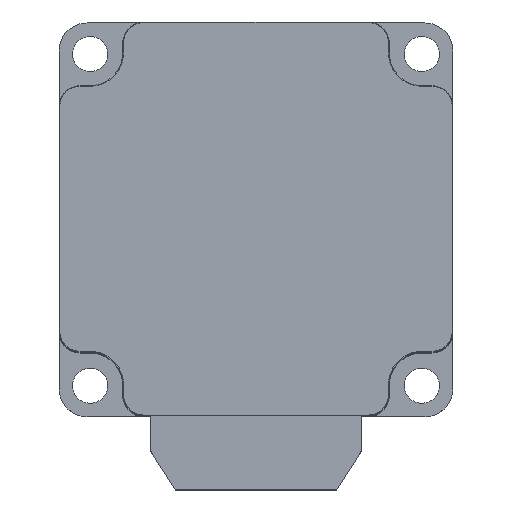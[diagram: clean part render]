
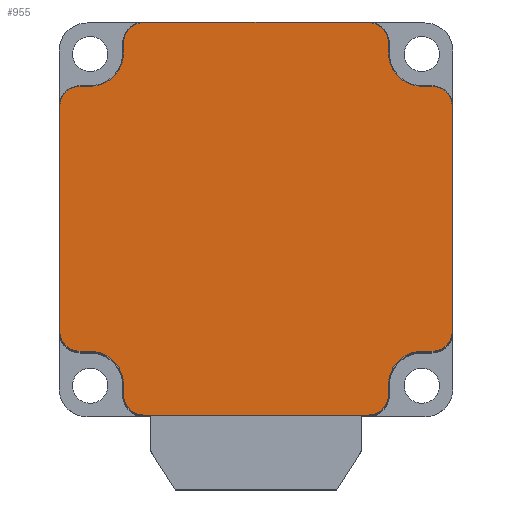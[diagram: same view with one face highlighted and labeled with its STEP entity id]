
A CAD part, top view. The second image highlights one B-rep face of the part: STEP entity #955.
In plain terms, the highlighted planar face has unit normal (0, 0, 1).
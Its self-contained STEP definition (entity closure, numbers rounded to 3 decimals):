
#955=ADVANCED_FACE('',(#2001),#2003,.T.);
#2001=FACE_BOUND('',#2002,.T.);
#2002=EDGE_LOOP('',(#2807,#2808,#2809,#2810,#2811,#2812,#2813,#2814,#2815,#2816,
#2817,#2818,#2819,#2820,#2821,#2822,#2823,#2824,#2825,#2826,#2827,#2828,#2829,#2830));
#2003=PLANE('',#2004);
#2004=AXIS2_PLACEMENT_3D('',#2005,#2006,#2007);
#2005=CARTESIAN_POINT('',(0.,0.,96.));
#2006=DIRECTION('',(0.,-0.,1.));
#2007=DIRECTION('',(0.,1.,0.));
#2807=ORIENTED_EDGE('',*,*,#3226,.T.);
#2808=ORIENTED_EDGE('',*,*,#3272,.T.);
#2809=ORIENTED_EDGE('',*,*,#3270,.T.);
#2810=ORIENTED_EDGE('',*,*,#3268,.T.);
#2811=ORIENTED_EDGE('',*,*,#3266,.T.);
#2812=ORIENTED_EDGE('',*,*,#3264,.T.);
#2813=ORIENTED_EDGE('',*,*,#3262,.T.);
#2814=ORIENTED_EDGE('',*,*,#3260,.T.);
#2815=ORIENTED_EDGE('',*,*,#3258,.T.);
#2816=ORIENTED_EDGE('',*,*,#3256,.T.);
#2817=ORIENTED_EDGE('',*,*,#3254,.T.);
#2818=ORIENTED_EDGE('',*,*,#3252,.T.);
#2819=ORIENTED_EDGE('',*,*,#3250,.T.);
#2820=ORIENTED_EDGE('',*,*,#3248,.T.);
#2821=ORIENTED_EDGE('',*,*,#3246,.T.);
#2822=ORIENTED_EDGE('',*,*,#3244,.T.);
#2823=ORIENTED_EDGE('',*,*,#3242,.T.);
#2824=ORIENTED_EDGE('',*,*,#3240,.T.);
#2825=ORIENTED_EDGE('',*,*,#3238,.T.);
#2826=ORIENTED_EDGE('',*,*,#3236,.T.);
#2827=ORIENTED_EDGE('',*,*,#3234,.T.);
#2828=ORIENTED_EDGE('',*,*,#3232,.T.);
#2829=ORIENTED_EDGE('',*,*,#3230,.T.);
#2830=ORIENTED_EDGE('',*,*,#3228,.T.);
#3226=EDGE_CURVE('',#3738,#3736,#3739,.T.);
#3228=EDGE_CURVE('',#3741,#3738,#3742,.T.);
#3230=EDGE_CURVE('',#3744,#3741,#3745,.T.);
#3232=EDGE_CURVE('',#3747,#3744,#3748,.T.);
#3234=EDGE_CURVE('',#3750,#3747,#3751,.T.);
#3236=EDGE_CURVE('',#3753,#3750,#3754,.T.);
#3238=EDGE_CURVE('',#3756,#3753,#3757,.T.);
#3240=EDGE_CURVE('',#3759,#3756,#3760,.T.);
#3242=EDGE_CURVE('',#3762,#3759,#3763,.T.);
#3244=EDGE_CURVE('',#3765,#3762,#3766,.T.);
#3246=EDGE_CURVE('',#3768,#3765,#3769,.T.);
#3248=EDGE_CURVE('',#3771,#3768,#3772,.T.);
#3250=EDGE_CURVE('',#3774,#3771,#3775,.T.);
#3252=EDGE_CURVE('',#3777,#3774,#3778,.T.);
#3254=EDGE_CURVE('',#3780,#3777,#3781,.T.);
#3256=EDGE_CURVE('',#3783,#3780,#3784,.T.);
#3258=EDGE_CURVE('',#3786,#3783,#3787,.T.);
#3260=EDGE_CURVE('',#3789,#3786,#3790,.T.);
#3262=EDGE_CURVE('',#3792,#3789,#3793,.T.);
#3264=EDGE_CURVE('',#3795,#3792,#3796,.T.);
#3266=EDGE_CURVE('',#3798,#3795,#3799,.T.);
#3268=EDGE_CURVE('',#3801,#3798,#3802,.T.);
#3270=EDGE_CURVE('',#3804,#3801,#3805,.T.);
#3272=EDGE_CURVE('',#3736,#3804,#3807,.T.);
#3736=VERTEX_POINT('',#4889);
#3738=VERTEX_POINT('',#4893);
#3739=CIRCLE('',#4894,2.9);
#3741=VERTEX_POINT('',#4901);
#3742=LINE('',#4902,#4903);
#3744=VERTEX_POINT('',#4908);
#3745=CIRCLE('',#4909,2.9);
#3747=VERTEX_POINT('',#4916);
#3748=LINE('',#4917,#4918);
#3750=VERTEX_POINT('',#4923);
#3751=CIRCLE('',#4924,4.73);
#3753=VERTEX_POINT('',#4931);
#3754=LINE('',#4932,#4933);
#3756=VERTEX_POINT('',#4938);
#3757=CIRCLE('',#4939,2.9);
#3759=VERTEX_POINT('',#4946);
#3760=LINE('',#4947,#4948);
#3762=VERTEX_POINT('',#4953);
#3763=CIRCLE('',#4954,2.9);
#3765=VERTEX_POINT('',#4961);
#3766=LINE('',#4962,#4963);
#3768=VERTEX_POINT('',#4968);
#3769=CIRCLE('',#4969,4.73);
#3771=VERTEX_POINT('',#4976);
#3772=LINE('',#4977,#4978);
#3774=VERTEX_POINT('',#4983);
#3775=CIRCLE('',#4984,2.9);
#3777=VERTEX_POINT('',#4991);
#3778=LINE('',#4992,#4993);
#3780=VERTEX_POINT('',#4998);
#3781=CIRCLE('',#4999,2.9);
#3783=VERTEX_POINT('',#5006);
#3784=LINE('',#5007,#5008);
#3786=VERTEX_POINT('',#5013);
#3787=CIRCLE('',#5014,4.73);
#3789=VERTEX_POINT('',#5021);
#3790=LINE('',#5022,#5023);
#3792=VERTEX_POINT('',#5028);
#3793=CIRCLE('',#5029,2.9);
#3795=VERTEX_POINT('',#5036);
#3796=LINE('',#5037,#5038);
#3798=VERTEX_POINT('',#5043);
#3799=CIRCLE('',#5044,2.9);
#3801=VERTEX_POINT('',#5051);
#3802=LINE('',#5052,#5053);
#3804=VERTEX_POINT('',#5058);
#3805=CIRCLE('',#5059,4.73);
#3807=LINE('',#5066,#5067);
#4889=CARTESIAN_POINT('',(-25.,-18.84,96.));
#4893=CARTESIAN_POINT('',(-27.9,-15.94,96.));
#4894=AXIS2_PLACEMENT_3D('',#4895,#4896,#4897);
#4895=CARTESIAN_POINT('',(-25.,-15.94,96.));
#4896=DIRECTION('',(0.,-0.,1.));
#4897=DIRECTION('',(-1.,0.,0.));
#4901=CARTESIAN_POINT('',(-27.9,15.94,96.));
#4902=CARTESIAN_POINT('',(-27.9,15.94,96.));
#4903=VECTOR('',#4904,1.);
#4904=DIRECTION('',(0.,-1.,0.));
#4908=CARTESIAN_POINT('',(-25.,18.84,96.));
#4909=AXIS2_PLACEMENT_3D('',#4910,#4911,#4912);
#4910=CARTESIAN_POINT('',(-25.,15.94,96.));
#4911=DIRECTION('',(0.,-0.,1.));
#4912=DIRECTION('',(0.,1.,0.));
#4916=CARTESIAN_POINT('',(-23.57,18.84,96.));
#4917=CARTESIAN_POINT('',(-23.57,18.84,96.));
#4918=VECTOR('',#4919,1.);
#4919=DIRECTION('',(-1.,0.,0.));
#4923=CARTESIAN_POINT('',(-18.84,23.57,96.));
#4924=AXIS2_PLACEMENT_3D('',#4925,#4926,#4927);
#4925=CARTESIAN_POINT('',(-23.57,23.57,96.));
#4926=DIRECTION('',(0.,0.,-1.));
#4927=DIRECTION('',(1.,0.,0.));
#4931=CARTESIAN_POINT('',(-18.84,25.,96.));
#4932=CARTESIAN_POINT('',(-18.84,25.,96.));
#4933=VECTOR('',#4934,1.);
#4934=DIRECTION('',(0.,-1.,0.));
#4938=CARTESIAN_POINT('',(-15.94,27.9,96.));
#4939=AXIS2_PLACEMENT_3D('',#4940,#4941,#4942);
#4940=CARTESIAN_POINT('',(-15.94,25.,96.));
#4941=DIRECTION('',(0.,-0.,1.));
#4942=DIRECTION('',(0.,1.,0.));
#4946=CARTESIAN_POINT('',(15.94,27.9,96.));
#4947=CARTESIAN_POINT('',(15.94,27.9,96.));
#4948=VECTOR('',#4949,1.);
#4949=DIRECTION('',(-1.,0.,0.));
#4953=CARTESIAN_POINT('',(18.84,25.,96.));
#4954=AXIS2_PLACEMENT_3D('',#4955,#4956,#4957);
#4955=CARTESIAN_POINT('',(15.94,25.,96.));
#4956=DIRECTION('',(0.,-0.,1.));
#4957=DIRECTION('',(1.,0.,0.));
#4961=CARTESIAN_POINT('',(18.84,23.57,96.));
#4962=CARTESIAN_POINT('',(18.84,23.57,96.));
#4963=VECTOR('',#4964,1.);
#4964=DIRECTION('',(0.,1.,0.));
#4968=CARTESIAN_POINT('',(23.57,18.84,96.));
#4969=AXIS2_PLACEMENT_3D('',#4970,#4971,#4972);
#4970=CARTESIAN_POINT('',(23.57,23.57,96.));
#4971=DIRECTION('',(-0.,0.,-1.));
#4972=DIRECTION('',(0.,-1.,0.));
#4976=CARTESIAN_POINT('',(25.,18.84,96.));
#4977=CARTESIAN_POINT('',(25.,18.84,96.));
#4978=VECTOR('',#4979,1.);
#4979=DIRECTION('',(-1.,0.,0.));
#4983=CARTESIAN_POINT('',(27.9,15.94,96.));
#4984=AXIS2_PLACEMENT_3D('',#4985,#4986,#4987);
#4985=CARTESIAN_POINT('',(25.,15.94,96.));
#4986=DIRECTION('',(0.,-0.,1.));
#4987=DIRECTION('',(1.,0.,0.));
#4991=CARTESIAN_POINT('',(27.9,-15.94,96.));
#4992=CARTESIAN_POINT('',(27.9,-15.94,96.));
#4993=VECTOR('',#4994,1.);
#4994=DIRECTION('',(0.,1.,0.));
#4998=CARTESIAN_POINT('',(25.,-18.84,96.));
#4999=AXIS2_PLACEMENT_3D('',#5000,#5001,#5002);
#5000=CARTESIAN_POINT('',(25.,-15.94,96.));
#5001=DIRECTION('',(0.,-0.,1.));
#5002=DIRECTION('',(0.,-1.,0.));
#5006=CARTESIAN_POINT('',(23.57,-18.84,96.));
#5007=CARTESIAN_POINT('',(23.57,-18.84,96.));
#5008=VECTOR('',#5009,1.);
#5009=DIRECTION('',(1.,0.,0.));
#5013=CARTESIAN_POINT('',(18.84,-23.57,96.));
#5014=AXIS2_PLACEMENT_3D('',#5015,#5016,#5017);
#5015=CARTESIAN_POINT('',(23.57,-23.57,96.));
#5016=DIRECTION('',(-0.,0.,-1.));
#5017=DIRECTION('',(-1.,0.,0.));
#5021=CARTESIAN_POINT('',(18.84,-25.,96.));
#5022=CARTESIAN_POINT('',(18.84,-25.,96.));
#5023=VECTOR('',#5024,1.);
#5024=DIRECTION('',(0.,1.,0.));
#5028=CARTESIAN_POINT('',(15.94,-27.9,96.));
#5029=AXIS2_PLACEMENT_3D('',#5030,#5031,#5032);
#5030=CARTESIAN_POINT('',(15.94,-25.,96.));
#5031=DIRECTION('',(0.,-0.,1.));
#5032=DIRECTION('',(0.,-1.,0.));
#5036=CARTESIAN_POINT('',(-15.94,-27.9,96.));
#5037=CARTESIAN_POINT('',(-15.94,-27.9,96.));
#5038=VECTOR('',#5039,1.);
#5039=DIRECTION('',(1.,0.,0.));
#5043=CARTESIAN_POINT('',(-18.84,-25.,96.));
#5044=AXIS2_PLACEMENT_3D('',#5045,#5046,#5047);
#5045=CARTESIAN_POINT('',(-15.94,-25.,96.));
#5046=DIRECTION('',(0.,-0.,1.));
#5047=DIRECTION('',(-1.,0.,0.));
#5051=CARTESIAN_POINT('',(-18.84,-23.57,96.));
#5052=CARTESIAN_POINT('',(-18.84,-23.57,96.));
#5053=VECTOR('',#5054,1.);
#5054=DIRECTION('',(0.,-1.,0.));
#5058=CARTESIAN_POINT('',(-23.57,-18.84,96.));
#5059=AXIS2_PLACEMENT_3D('',#5060,#5061,#5062);
#5060=CARTESIAN_POINT('',(-23.57,-23.57,96.));
#5061=DIRECTION('',(0.,0.,-1.));
#5062=DIRECTION('',(0.,1.,0.));
#5066=CARTESIAN_POINT('',(-25.,-18.84,96.));
#5067=VECTOR('',#5068,1.);
#5068=DIRECTION('',(1.,0.,0.));
